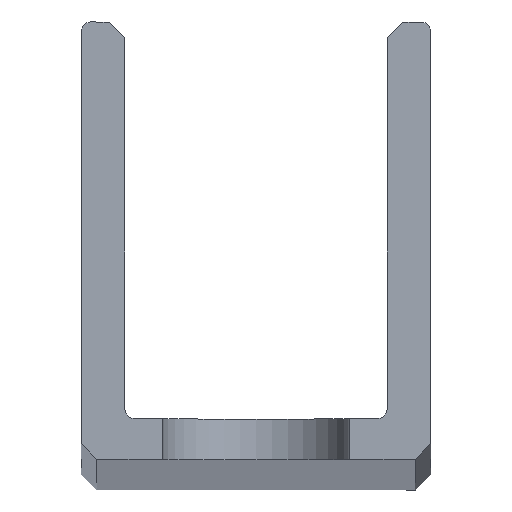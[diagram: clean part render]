
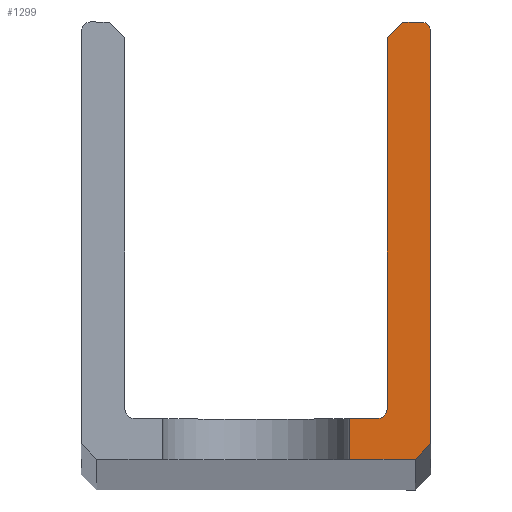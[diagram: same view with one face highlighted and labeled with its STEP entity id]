
A CAD part, top view. The second image highlights one B-rep face of the part: STEP entity #1299.
In plain terms, the highlighted planar face has unit normal (0, 0, 1).
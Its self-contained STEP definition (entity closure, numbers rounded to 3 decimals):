
#62 = PLANE ( 'NONE',  #184 ) ;
#171 = CARTESIAN_POINT ( 'NONE',  ( -5.1, 0., 564. ) ) ;
#184 = AXIS2_PLACEMENT_3D ( 'NONE', #2060, #548, #900 ) ;
#189 = CARTESIAN_POINT ( 'NONE',  ( 5.1, 0., 564. ) ) ;
#248 = CIRCLE ( 'NONE', #369, 0.3 ) ;
#267 = VERTEX_POINT ( 'NONE', #1080 ) ;
#269 = VECTOR ( 'NONE', #834, 1000. ) ;
#300 = VERTEX_POINT ( 'NONE', #604 ) ;
#334 = DIRECTION ( 'NONE',  ( 0., 1., 0. ) ) ;
#369 = AXIS2_PLACEMENT_3D ( 'NONE', #707, #391, #1546 ) ;
#375 = CARTESIAN_POINT ( 'NONE',  ( 3., 1.6, 564. ) ) ;
#391 = DIRECTION ( 'NONE',  ( 0., 0., -1. ) ) ;
#416 = ORIENTED_EDGE ( 'NONE', *, *, #1872, .T. ) ;
#441 = ORIENTED_EDGE ( 'NONE', *, *, #762, .F. ) ;
#459 = EDGE_CURVE ( 'NONE', #1093, #648, #1671, .T. ) ;
#464 = LINE ( 'NONE', #2109, #701 ) ;
#489 = LINE ( 'NONE', #512, #719 ) ;
#512 = CARTESIAN_POINT ( 'NONE',  ( -3.9, 1.3, 564. ) ) ;
#528 = CARTESIAN_POINT ( 'NONE',  ( 5.6, 13.7, 564. ) ) ;
#548 = DIRECTION ( 'NONE',  ( 0., 0., 1. ) ) ;
#604 = CARTESIAN_POINT ( 'NONE',  ( 3., 1.3, 564. ) ) ;
#609 = DIRECTION ( 'NONE',  ( 0., -1., 0. ) ) ;
#648 = VERTEX_POINT ( 'NONE', #968 ) ;
#651 = LINE ( 'NONE', #784, #1327 ) ;
#675 = CARTESIAN_POINT ( 'NONE',  ( 5.6, 13.7, 564. ) ) ;
#682 = LINE ( 'NONE', #375, #1765 ) ;
#690 = VECTOR ( 'NONE', #839, 1000. ) ;
#692 = VERTEX_POINT ( 'NONE', #2153 ) ;
#693 = EDGE_CURVE ( 'NONE', #2159, #949, #651, .T. ) ;
#701 = VECTOR ( 'NONE', #782, 1000. ) ;
#707 = CARTESIAN_POINT ( 'NONE',  ( 3.9, 1.6, 564. ) ) ;
#719 = VECTOR ( 'NONE', #1831, 1000. ) ;
#762 = EDGE_CURVE ( 'NONE', #1093, #300, #682, .T. ) ;
#766 = ORIENTED_EDGE ( 'NONE', *, *, #1232, .T. ) ;
#782 = DIRECTION ( 'NONE',  ( -0.707, -0.707, 0. ) ) ;
#784 = CARTESIAN_POINT ( 'NONE',  ( 4.2, 13.5, 564. ) ) ;
#811 = AXIS2_PLACEMENT_3D ( 'NONE', #902, #915, #1577 ) ;
#829 = CARTESIAN_POINT ( 'NONE',  ( 4.7, 14., 564. ) ) ;
#834 = DIRECTION ( 'NONE',  ( 0., 1., 0. ) ) ;
#839 = DIRECTION ( 'NONE',  ( -1., 0., 0. ) ) ;
#869 = DIRECTION ( 'NONE',  ( 1., 0., 0. ) ) ;
#900 = DIRECTION ( 'NONE',  ( 1., 0., 0. ) ) ;
#902 = CARTESIAN_POINT ( 'NONE',  ( 5.3, 13.7, 564. ) ) ;
#915 = DIRECTION ( 'NONE',  ( 0., 0., 1. ) ) ;
#949 = VERTEX_POINT ( 'NONE', #1719 ) ;
#968 = CARTESIAN_POINT ( 'NONE',  ( 5.1, 0., 564. ) ) ;
#977 = EDGE_CURVE ( 'NONE', #1223, #2100, #1755, .T. ) ;
#1017 = EDGE_CURVE ( 'NONE', #1636, #2159, #464, .T. ) ;
#1021 = LINE ( 'NONE', #829, #690 ) ;
#1060 = ORIENTED_EDGE ( 'NONE', *, *, #1017, .T. ) ;
#1072 = FACE_OUTER_BOUND ( 'NONE', #1581, .T. ) ;
#1080 = CARTESIAN_POINT ( 'NONE',  ( 3.9, 1.3, 564. ) ) ;
#1093 = VERTEX_POINT ( 'NONE', #1620 ) ;
#1173 = LINE ( 'NONE', #189, #1477 ) ;
#1201 = EDGE_CURVE ( 'NONE', #2100, #1636, #1021, .T. ) ;
#1223 = VERTEX_POINT ( 'NONE', #528 ) ;
#1231 = ORIENTED_EDGE ( 'NONE', *, *, #2049, .T. ) ;
#1232 = EDGE_CURVE ( 'NONE', #648, #692, #1173, .T. ) ;
#1299 = ADVANCED_FACE ( 'NONE', ( #1072 ), #62, .T. ) ;
#1327 = VECTOR ( 'NONE', #609, 1000. ) ;
#1477 = VECTOR ( 'NONE', #1823, 1000. ) ;
#1493 = CARTESIAN_POINT ( 'NONE',  ( 5.3, 14., 564. ) ) ;
#1499 = ORIENTED_EDGE ( 'NONE', *, *, #693, .T. ) ;
#1541 = VECTOR ( 'NONE', #869, 1000. ) ;
#1542 = ORIENTED_EDGE ( 'NONE', *, *, #2131, .T. ) ;
#1546 = DIRECTION ( 'NONE',  ( 1., 0., 0. ) ) ;
#1577 = DIRECTION ( 'NONE',  ( 1., 0., 0. ) ) ;
#1581 = EDGE_LOOP ( 'NONE', ( #441, #1972, #766, #1231, #2069, #1601, #1060, #1499, #416, #1542 ) ) ;
#1601 = ORIENTED_EDGE ( 'NONE', *, *, #1201, .T. ) ;
#1620 = CARTESIAN_POINT ( 'NONE',  ( 3., 0., 564. ) ) ;
#1636 = VERTEX_POINT ( 'NONE', #2012 ) ;
#1669 = CARTESIAN_POINT ( 'NONE',  ( 4.2, 13.5, 564. ) ) ;
#1671 = LINE ( 'NONE', #171, #1541 ) ;
#1719 = CARTESIAN_POINT ( 'NONE',  ( 4.2, 1.6, 564. ) ) ;
#1755 = CIRCLE ( 'NONE', #811, 0.3 ) ;
#1765 = VECTOR ( 'NONE', #334, 1000. ) ;
#1823 = DIRECTION ( 'NONE',  ( 0.707, 0.707, 0. ) ) ;
#1831 = DIRECTION ( 'NONE',  ( -1., 0., 0. ) ) ;
#1841 = LINE ( 'NONE', #675, #269 ) ;
#1872 = EDGE_CURVE ( 'NONE', #949, #267, #248, .T. ) ;
#1972 = ORIENTED_EDGE ( 'NONE', *, *, #459, .T. ) ;
#2012 = CARTESIAN_POINT ( 'NONE',  ( 4.7, 14., 564. ) ) ;
#2049 = EDGE_CURVE ( 'NONE', #692, #1223, #1841, .T. ) ;
#2060 = CARTESIAN_POINT ( 'NONE',  ( -3.9, 1.6, 564. ) ) ;
#2069 = ORIENTED_EDGE ( 'NONE', *, *, #977, .T. ) ;
#2100 = VERTEX_POINT ( 'NONE', #1493 ) ;
#2109 = CARTESIAN_POINT ( 'NONE',  ( 4.2, 13.5, 564. ) ) ;
#2131 = EDGE_CURVE ( 'NONE', #267, #300, #489, .T. ) ;
#2153 = CARTESIAN_POINT ( 'NONE',  ( 5.6, 0.5, 564. ) ) ;
#2159 = VERTEX_POINT ( 'NONE', #1669 ) ;
